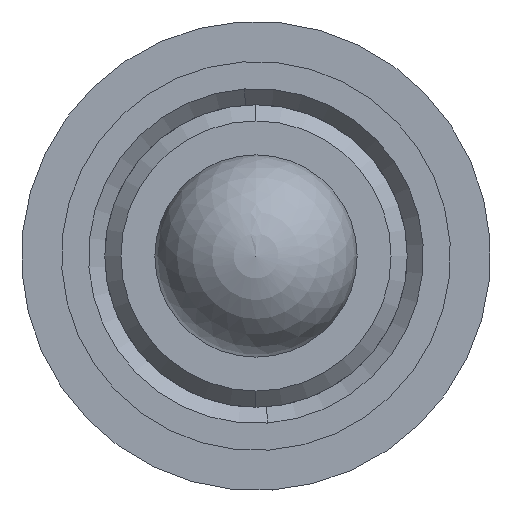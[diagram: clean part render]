
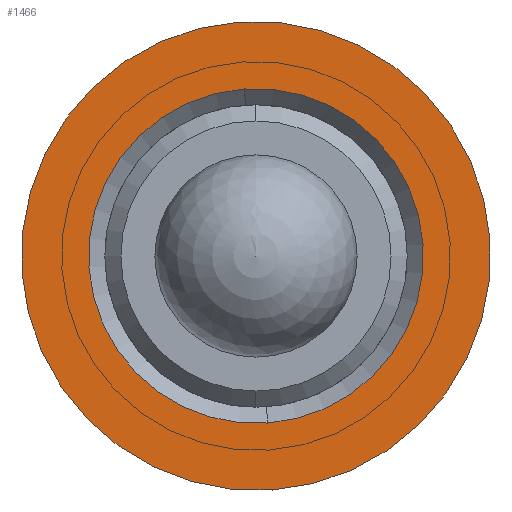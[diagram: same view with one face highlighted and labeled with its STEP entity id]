
A CAD part, left-side view. The second image highlights one B-rep face of the part: STEP entity #1466.
In plain terms, the highlighted planar face has unit normal (-1, 0, 0).
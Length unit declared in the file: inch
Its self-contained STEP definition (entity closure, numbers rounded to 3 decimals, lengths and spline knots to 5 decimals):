
#4 = DIRECTION ( 'NONE',  ( 0., -0.069, -0.998 ) ) ;
#17 = EDGE_CURVE ( 'NONE', #205, #1407, #1293, .T. ) ;
#55 = AXIS2_PLACEMENT_3D ( 'NONE', #1030, #579, #1371 ) ;
#100 = DIRECTION ( 'NONE',  ( 1., 0., 0. ) ) ;
#107 = EDGE_LOOP ( 'NONE', ( #575, #230 ) ) ;
#186 = CIRCLE ( 'NONE', #1084, 0.1035 ) ;
#199 = AXIS2_PLACEMENT_3D ( 'NONE', #989, #100, #4 ) ;
#205 = VERTEX_POINT ( 'NONE', #1102 ) ;
#207 = CARTESIAN_POINT ( 'NONE',  ( 0.25214, 1.3831, 2.22708 ) ) ;
#230 = ORIENTED_EDGE ( 'NONE', *, *, #1329, .T. ) ;
#249 = AXIS2_PLACEMENT_3D ( 'NONE', #556, #551, #547 ) ;
#301 = CARTESIAN_POINT ( 'NONE',  ( 0.25214, 1.37303, 2.08242 ) ) ;
#394 = DIRECTION ( 'NONE',  ( -1., 0., 0. ) ) ;
#466 = CARTESIAN_POINT ( 'NONE',  ( 0.25214, 1.36585, 1.97917 ) ) ;
#472 = FACE_BOUND ( 'NONE', #1227, .T. ) ;
#547 = DIRECTION ( 'NONE',  ( 0., 0.069, 0.998 ) ) ;
#551 = DIRECTION ( 'NONE',  ( -1., 0., 0. ) ) ;
#556 = CARTESIAN_POINT ( 'NONE',  ( 0.25214, 1.37303, 2.08242 ) ) ;
#575 = ORIENTED_EDGE ( 'NONE', *, *, #891, .T. ) ;
#578 = VERTEX_POINT ( 'NONE', #1483 ) ;
#579 = DIRECTION ( 'NONE',  ( 1., 0., 0. ) ) ;
#582 = ORIENTED_EDGE ( 'NONE', *, *, #17, .T. ) ;
#799 = CARTESIAN_POINT ( 'NONE',  ( 0.25214, 1.37303, 2.08242 ) ) ;
#891 = EDGE_CURVE ( 'NONE', #1359, #578, #1513, .T. ) ;
#944 = DIRECTION ( 'NONE',  ( 0., -0.069, -0.998 ) ) ;
#962 = DIRECTION ( 'NONE',  ( 1., 0., 0. ) ) ;
#989 = CARTESIAN_POINT ( 'NONE',  ( 0.25214, 1.37303, 2.08242 ) ) ;
#1030 = CARTESIAN_POINT ( 'NONE',  ( 0.25214, 1.37303, 2.08242 ) ) ;
#1079 = FACE_OUTER_BOUND ( 'NONE', #107, .T. ) ;
#1084 = AXIS2_PLACEMENT_3D ( 'NONE', #799, #962, #944 ) ;
#1099 = ORIENTED_EDGE ( 'NONE', *, *, #1421, .T. ) ;
#1102 = CARTESIAN_POINT ( 'NONE',  ( 0.25214, 1.38022, 2.18568 ) ) ;
#1124 = PLANE ( 'NONE',  #199 ) ;
#1227 = EDGE_LOOP ( 'NONE', ( #582, #1099 ) ) ;
#1265 = DIRECTION ( 'NONE',  ( 0., 0.069, 0.998 ) ) ;
#1272 = AXIS2_PLACEMENT_3D ( 'NONE', #301, #394, #1265 ) ;
#1293 = CIRCLE ( 'NONE', #55, 0.1035 ) ;
#1329 = EDGE_CURVE ( 'NONE', #578, #1359, #1478, .T. ) ;
#1359 = VERTEX_POINT ( 'NONE', #207 ) ;
#1371 = DIRECTION ( 'NONE',  ( 0., -0.069, -0.998 ) ) ;
#1407 = VERTEX_POINT ( 'NONE', #466 ) ;
#1421 = EDGE_CURVE ( 'NONE', #1407, #205, #186, .T. ) ;
#1466 = ADVANCED_FACE ( 'NONE', ( #472, #1079 ), #1124, .F. ) ;
#1478 = CIRCLE ( 'NONE', #1272, 0.145 ) ;
#1483 = CARTESIAN_POINT ( 'NONE',  ( 0.25214, 1.36297, 1.93777 ) ) ;
#1513 = CIRCLE ( 'NONE', #249, 0.145 ) ;
